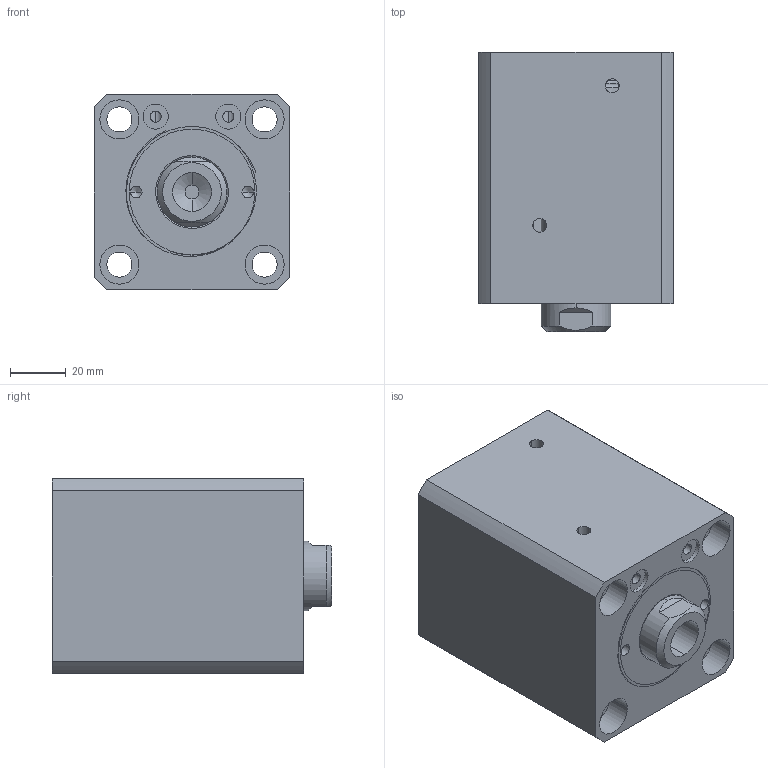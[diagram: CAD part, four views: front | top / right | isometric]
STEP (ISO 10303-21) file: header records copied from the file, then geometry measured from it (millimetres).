
FILE_DESCRIPTION (( 'STEP AP214' ), '1' );
FILE_NAME ('chtb-sdma40x35n_asm.STEP', '2018-06-06T06:03:49', ( 'Windows' ), ( 'Microsoft' ), 'SwSTEP 2.0', 'SolidWorks 2015', '' );
FILE_SCHEMA (( 'AUTOMOTIVE_DESIGN' ));
Length unit declared in the file: millimetre
Products named in the file (4): CHTB-SD40QG; CHTB-SDMA40X35NBT; CHTB-SD40X35NHSG; chtb-sdma40x35n_asm
Assembly tree (3 placements, depth 2):
  chtb-sdma40x35n_asm
    CHTB-SD40X35NHSG
    CHTB-SDMA40X35NBT
    CHTB-SD40QG
Bounding box: 70 x 100 x 70 mm (x, y, z)
Volume: 374704 mm3; surface area: 80519.2 mm2
Topology: 3 solids, 3 shells, 157 faces, 413 edges, 274 vertices
Faces by surface type: cylinder 84, plane 36, torus 14, bspline 14, cone 9
Entity records: 10139 total; most frequent: CARTESIAN_POINT 6157, ORIENTED_EDGE 814, DIRECTION 768, EDGE_CURVE 407, AXIS2_PLACEMENT_3D 326, VERTEX_POINT 274, EDGE_LOOP 193, CIRCLE 177
